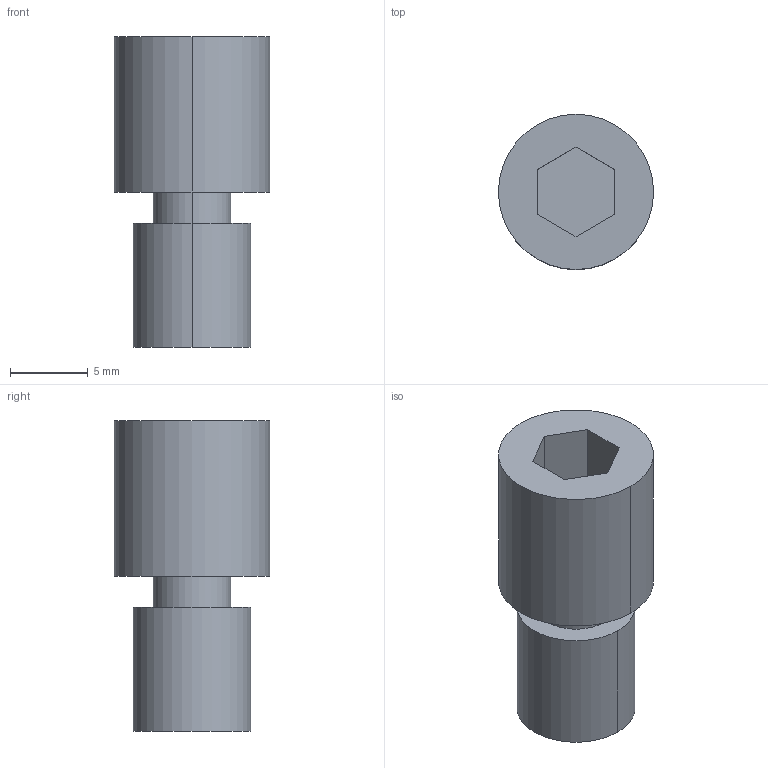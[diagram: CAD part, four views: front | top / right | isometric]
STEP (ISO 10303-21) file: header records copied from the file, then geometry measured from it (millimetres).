
FILE_DESCRIPTION (( 'STEP AP203' ), '1' );
FILE_NAME ('bj736-10020a.STEP', '2021-10-25T00:03:28', ( '' ), ( '' ), 'SwSTEP 2.0', 'SolidWorks 2020', '' );
FILE_SCHEMA (( 'CONFIG_CONTROL_DESIGN' ));
Length unit declared in the file: millimetre
Products named in the file (1): bj736-10020a
Bounding box: 10 x 10 x 20 mm (x, y, z)
Volume: 1057.7 mm3; surface area: 849 mm2
Topology: 1 solids, 1 shells, 17 faces, 36 edges, 24 vertices
Faces by surface type: plane 11, cylinder 6
Entity records: 539 total; most frequent: DIRECTION 84, CARTESIAN_POINT 78, ORIENTED_EDGE 72, EDGE_CURVE 36, AXIS2_PLACEMENT_3D 30, VECTOR 24, VERTEX_POINT 24, LINE 24
